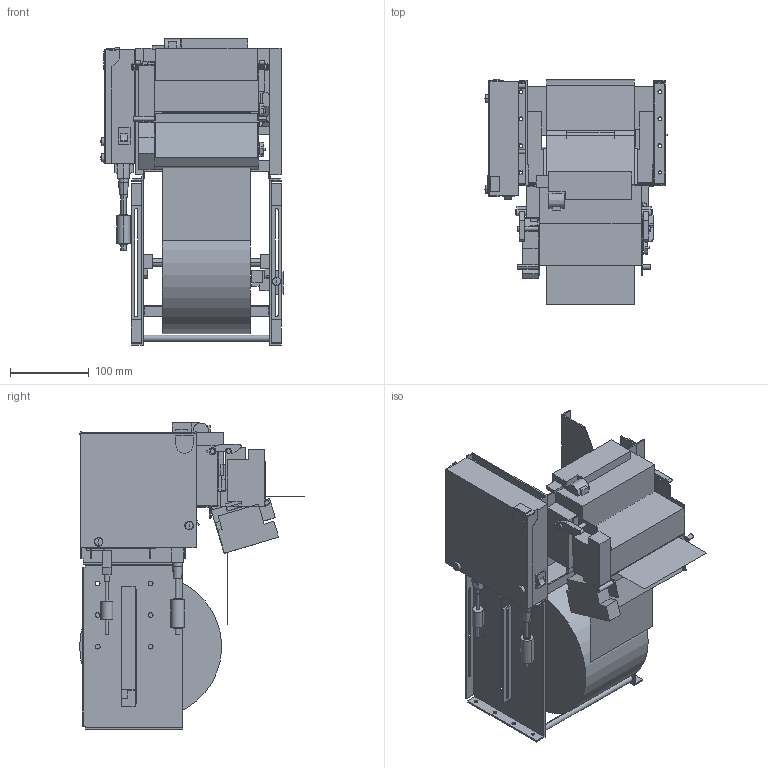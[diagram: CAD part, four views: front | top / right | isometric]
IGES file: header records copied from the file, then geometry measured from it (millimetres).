
Start section: Elysium IGES Interface
Global section: file name: X:\Sales\HP公開用\0916\TUP992_縦置USB_0920_out.igs,    ; native system: Unknown; preprocessor: Unknown; author: CADDoctor; organization: ELYSIUM; date: 20110921.091654; units: millimetre
Bounding box: 230.7 x 285 x 388.2 mm (x, y, z)
Volume: 5873327.5 mm3; surface area: 766296.2 mm2
Topology: 12 solids, 12 shells, 892 faces, 2444 edges, 1604 vertices
Faces by surface type: bspline 892
